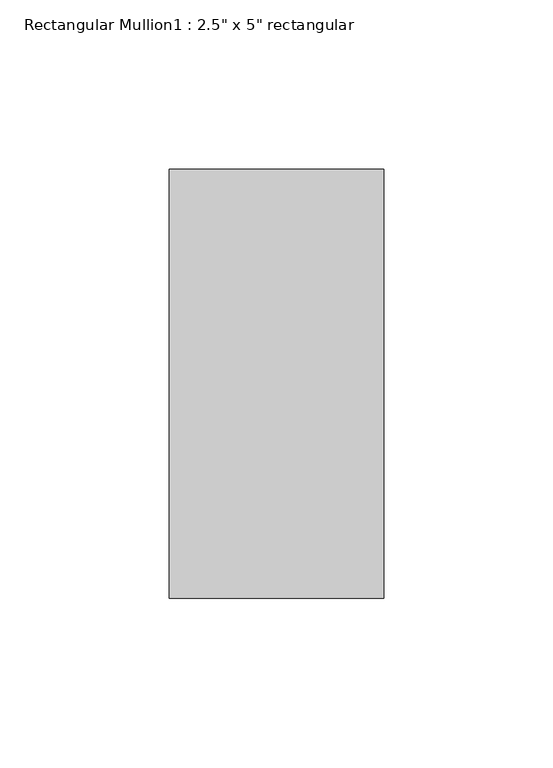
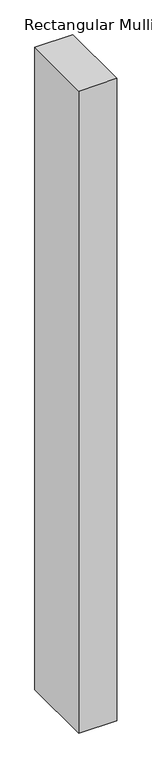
"""IFC4 building model written with IfcOpenShell, lengths in millimetres: member geometry."""

from ifc_helpers import new_model, si_unit, frame, origin, place, context, project, spatial, polyline, outline, extrude, source, transform, mapped, element, save


def member_01a4c065(model_context):
    return source(origin(), model_context, "Body", "SweptSolid", [
        extrude(outline(polyline([(31.75, 63.5), (31.75, -63.5), (-31.75, -63.5), (-31.75, 63.5), (31.75, 63.5)])), frame((0.0, 0.0, -1134.5333334), z_axis=(0.0, 0.0, 1.0), x_axis=(1.0, 0.0, 0.0)), (0.0, 0.0, 1.0), 1134.5333334),
    ])


if __name__ == "__main__":
    model = new_model("IFC4")
    model_context = context("Model", 3, world=origin())
    ifc_project = project(units=[si_unit("LENGTHUNIT", "METRE", prefix="MILLI")], contexts=[model_context])
    site = spatial("IfcSite", under=ifc_project)
    building = spatial("IfcBuilding", under=site)
    placement = place(None, origin())
    member_shape = member_01a4c065(model_context)
    element("IfcMember", 1, ObjectType="Rectangular Mullion1 : 2.5\" x 5\" rectangular", at=placement, inside=building, context=model_context, shape_type="MappedRepresentation", body=[
        mapped(member_shape, transform((0.0, 0.0, 0.0), x_axis=(1.0, 0.0, 0.0), y_axis=(0.0, 1.0, 0.0), z_axis=(0.0, 0.0, 1.0))),
    ])
    save(model, "model.ifc")
